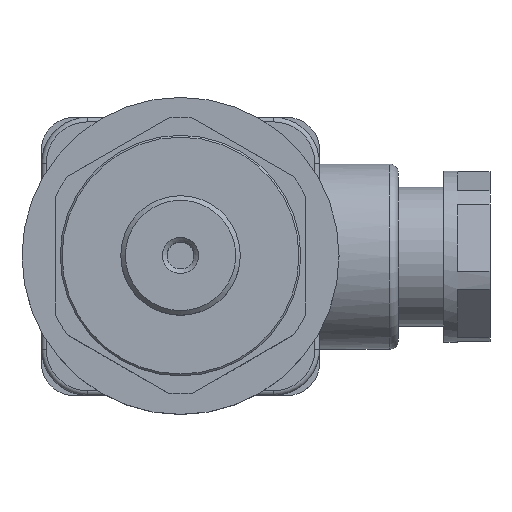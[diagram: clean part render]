
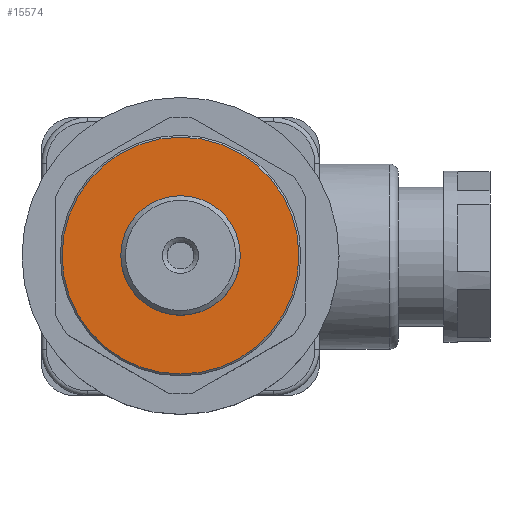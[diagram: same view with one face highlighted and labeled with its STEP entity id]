
A CAD part, top view. The second image highlights one B-rep face of the part: STEP entity #15574.
In plain terms, the highlighted planar face has unit normal (0, 0, 1).
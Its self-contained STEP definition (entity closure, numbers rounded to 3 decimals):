
#15500=CARTESIAN_POINT('',(6.45,0.,2.0));
#15501=VERTEX_POINT('',#15500);
#15502=CARTESIAN_POINT('',(0.0,0.0,2.0));
#15503=DIRECTION('',(0.0,0.0,-1.0));
#15504=DIRECTION('',(-1.0,0.0,0.0));
#15505=AXIS2_PLACEMENT_3D('',#15502,#15503,#15504);
#15506=CIRCLE('',#15505,6.45);
#15507=EDGE_CURVE('',#15501,#15501,#15506,.T.);
#15520=CARTESIAN_POINT('',(12.775,0.,2.0));
#15521=VERTEX_POINT('',#15520);
#15522=CARTESIAN_POINT('',(0.0,0.0,2.0));
#15523=DIRECTION('',(0.0,0.0,-1.0));
#15524=DIRECTION('',(-1.0,0.0,0.0));
#15525=AXIS2_PLACEMENT_3D('',#15522,#15523,#15524);
#15526=CIRCLE('',#15525,12.775);
#15527=EDGE_CURVE('',#15521,#15521,#15526,.T.);
#15563=CARTESIAN_POINT('',(0.0,0.0,2.0));
#15564=DIRECTION('',(0.0,0.0,-1.0));
#15565=DIRECTION('',(-1.0,0.0,0.0));
#15566=AXIS2_PLACEMENT_3D('',#15563,#15564,#15565);
#15567=PLANE('',#15566);
#15568=ORIENTED_EDGE('',*,*,#15527,.F.);
#15569=EDGE_LOOP('',(#15568));
#15570=FACE_OUTER_BOUND('',#15569,.T.);
#15571=ORIENTED_EDGE('',*,*,#15507,.T.);
#15572=EDGE_LOOP('',(#15571));
#15573=FACE_BOUND('',#15572,.T.);
#15574=ADVANCED_FACE('',(#15570,#15573),#15567,.F.);
